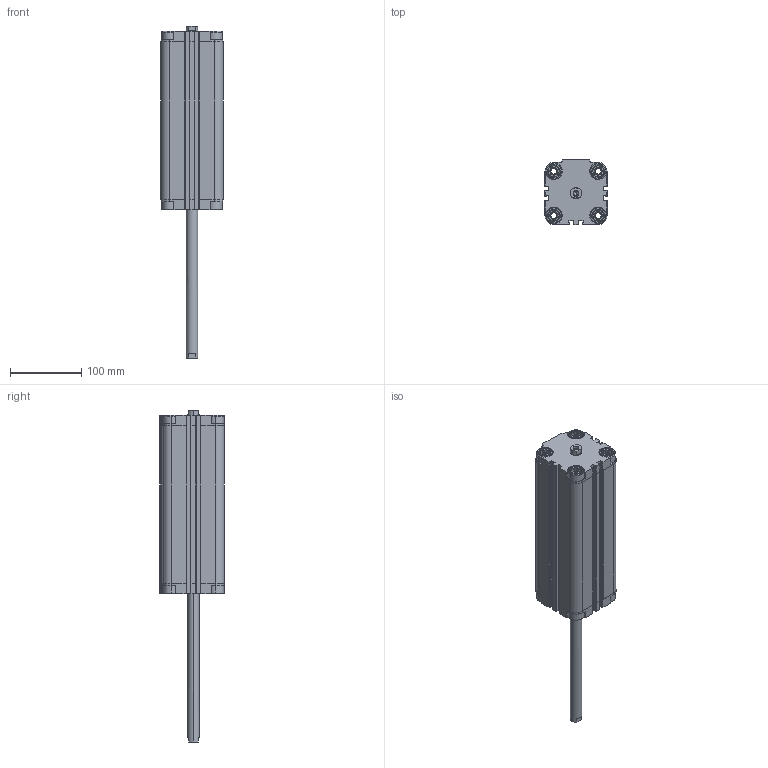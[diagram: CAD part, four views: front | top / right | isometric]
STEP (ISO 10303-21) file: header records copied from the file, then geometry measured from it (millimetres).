
FILE_DESCRIPTION (( 'STEP AP203' ), '1' );
FILE_NAME ('CDVU63-200F-P.STEP', '2020-07-24T18:39:44', ( '' ), ( '' ), 'SwSTEP 2.0', 'SolidWorks 2019', '' );
FILE_SCHEMA (( 'CONFIG_CONTROL_DESIGN' ));
Length unit declared in the file: millimetre
Products named in the file (1): CDVU63-200F-P
Bounding box: 87 x 91 x 465 mm (x, y, z)
Volume: 1126613.9 mm3; surface area: 250982.7 mm2
Topology: 2 solids, 2 shells, 622 faces, 1668 edges, 1092 vertices
Faces by surface type: plane 370, cylinder 188, cone 64
Entity records: 19635 total; most frequent: CARTESIAN_POINT 3951, ORIENTED_EDGE 3320, DIRECTION 3170, EDGE_CURVE 1660, VERTEX_POINT 1092, AXIS2_PLACEMENT_3D 1079, LINE 1012, VECTOR 1012
